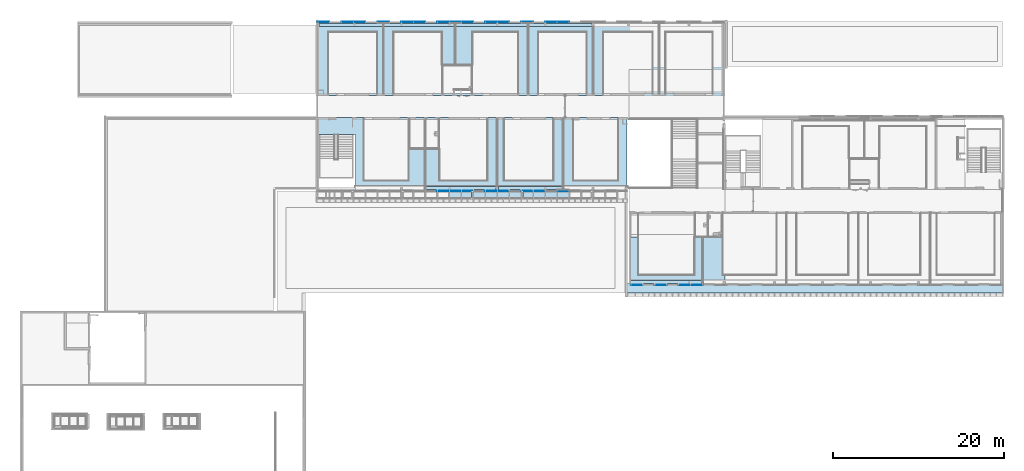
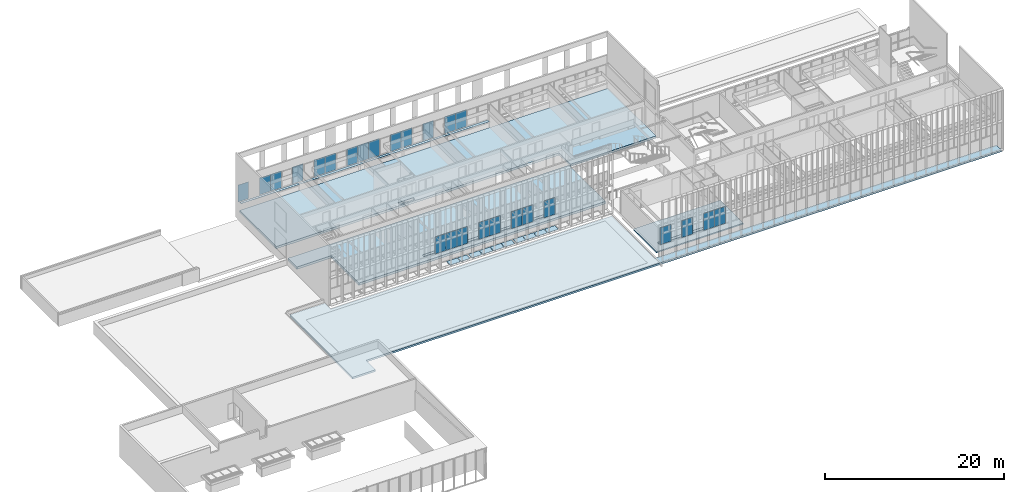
# One storey, part 30 of 106: 36 plates, 11 slabs, 2 openings, 5 elements without a shape of their own.
"""IFC2X3 building model written with IfcOpenShell, lengths in centimetres."""

from ifc_helpers import new_model, entity, si_unit, converted_unit, derived_unit, direction, frame, frame_2d, origin, origin_2d_with_axis, place, context, subcontext, project, spatial, polyline, rectangle, outline, extrude, source, transform, mapped, material, layer, layer_set, layer_usage, type_object, type_shapes, element, aggregate, save


model = new_model("IFC2X3")

# Units and contexts
model_context = context("Model", 3, precision=0.001, world=origin(), true_north=direction((6.12303176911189e-17, 1.0)))
body_context = subcontext(model_context, "Body", "Model", "MODEL_VIEW")
ifc_project = project(units=[si_unit("LENGTHUNIT", "METRE", prefix="CENTI"), si_unit("AREAUNIT", "SQUARE_METRE"), si_unit("VOLUMEUNIT", "CUBIC_METRE"), converted_unit("PLANEANGLEUNIT", "DEGREE", entity("IfcRatioMeasure", 0.0174532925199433), si_unit("PLANEANGLEUNIT", "RADIAN"), dimensions=[0, 0, 0, 0, 0, 0, 0]), si_unit("MASSUNIT", "GRAM", prefix="KILO"), derived_unit("MASSDENSITYUNIT", [(si_unit("MASSUNIT", "GRAM", prefix="KILO"), 1), (si_unit("LENGTHUNIT", "METRE"), -3)]), si_unit("TIMEUNIT", "SECOND"), si_unit("FREQUENCYUNIT", "HERTZ"), si_unit("THERMODYNAMICTEMPERATUREUNIT", "DEGREE_CELSIUS"), derived_unit("THERMALTRANSMITTANCEUNIT", [(si_unit("MASSUNIT", "GRAM", prefix="KILO"), 1), (si_unit("THERMODYNAMICTEMPERATUREUNIT", "KELVIN"), -1), (si_unit("TIMEUNIT", "SECOND"), -3)]), derived_unit("VOLUMETRICFLOWRATEUNIT", [(si_unit("LENGTHUNIT", "METRE"), 3), (si_unit("TIMEUNIT", "SECOND"), -1)]), si_unit("ELECTRICCURRENTUNIT", "AMPERE"), si_unit("ELECTRICVOLTAGEUNIT", "VOLT"), si_unit("POWERUNIT", "WATT"), si_unit("FORCEUNIT", "NEWTON", prefix="KILO"), si_unit("ILLUMINANCEUNIT", "LUX"), si_unit("LUMINOUSFLUXUNIT", "LUMEN"), si_unit("LUMINOUSINTENSITYUNIT", "CANDELA"), derived_unit("USERDEFINED", [(si_unit("MASSUNIT", "GRAM", prefix="KILO"), -1), (si_unit("LENGTHUNIT", "METRE"), -2), (si_unit("TIMEUNIT", "SECOND"), 3), (si_unit("LUMINOUSFLUXUNIT", "LUMEN"), 1)]), derived_unit("LINEARVELOCITYUNIT", [(si_unit("LENGTHUNIT", "METRE"), 1), (si_unit("TIMEUNIT", "SECOND"), -1)]), si_unit("PRESSUREUNIT", "PASCAL"), derived_unit("USERDEFINED", [(si_unit("LENGTHUNIT", "METRE"), -2), (si_unit("MASSUNIT", "GRAM", prefix="KILO"), 1), (si_unit("TIMEUNIT", "SECOND"), -2)])], contexts=[model_context])

# Site, building, storey
site_placement = place(None, frame((-2781.94577612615, 7442.24238424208, 0.0)))
site = spatial("IfcSite", under=ifc_project, at=site_placement, Name="Default", CompositionType="ELEMENT")
building_placement = place(site_placement, origin())
building = spatial("IfcBuilding", under=site, at=building_placement, CompositionType="ELEMENT")
storey_placement = place(building_placement, frame((0.0, 0.0, 422.0)))
storey = spatial("IfcBuildingStorey", under=building, at=storey_placement, Name="Toiture - Cuisine", CompositionType="ELEMENT", Elevation=421.999999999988)

# Slab, openings
ifc_material_1 = material(Name="Béton, coulé sur place")
ifc_layer_1 = layer(ifc_material_1, 1.0)
ifc_material_2 = material(Name="01 - Maçonnerie")
ifc_layer_2 = layer(ifc_material_2, 30.0)
ifc_layer_set_1 = layer_set([ifc_layer_1, ifc_layer_2], Name="Sol:02 - dalle béton 30cm + finition 1cm")
ifc_layer_usage_1 = layer_usage(ifc_layer_set_1, "AXIS3", "POSITIVE", 0.0)
slab_type_1 = type_object("IfcSlabType", Name="Sol:02 - dalle béton 30cm + finition 1cm", PredefinedType="FLOOR")
slab_1_placement = place(building_placement, frame((-8409.49987766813, -3005.31349958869, 391.0)))
slab_1 = element("IfcSlab", 1, at=slab_1_placement, inside=storey, type_object=slab_type_1, material=ifc_layer_usage_1, Name="Sol:02 - dalle béton 30cm + finition 1cm", ObjectType="Sol:02 - dalle béton 30cm + finition 1cm", PredefinedType="FLOOR", context=body_context, shape_type="SweptSolid", body=[
    extrude(outline(polyline([(3999.74999741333, 680.10824880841), (3999.74999741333, 1495.15674979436), (-741.750000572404, 1495.15674979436), (-741.750000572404, 425.156749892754), (358.249997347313, 425.156749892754), (358.249997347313, 680.108248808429), (3999.74999741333, 680.10824880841)])), frame((3999.74999741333, 1495.15674979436, 31.0), z_axis=(0.0, 0.0, -1.0), x_axis=(-1.0, 0.0, 0.0)), (0.0, 0.0, 1.0), 31.0),
])
opening_1_placement = place(slab_1_placement, frame((1637.34999902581, 2215.26499860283, 31.0)))
element("IfcOpeningElement", 2, at=opening_1_placement, cuts=slab_1, Name="Sol:02 - dalle béton 30cm + finition 1cm:2", ObjectType="Opening", context=body_context, shape_type="SweptSolid", body=[
    extrude(rectangle(XDim=39.9999999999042, YDim=67.3000020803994, at=origin_2d_with_axis()), frame((0.0, 0.0, 0.0), z_axis=(0.0, 0.0, -1.0), x_axis=(0.0, -1.0, 0.0)), (0.0, 0.0, 1.0), 31.0),
])
opening_2_placement = place(slab_1_placement, frame((1740.1999979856, 2215.26499860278, 31.0)))
element("IfcOpeningElement", 3, at=opening_2_placement, cuts=slab_1, Name="Sol:02 - dalle béton 30cm + finition 1cm:3", ObjectType="Opening", context=body_context, shape_type="SweptSolid", body=[
    extrude(rectangle(XDim=118.999999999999, YDim=39.9999999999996, at=origin_2d_with_axis()), frame((0.0, 0.0, 0.0), z_axis=(0.0, 0.0, -1.0), x_axis=(-1.0, 0.0, 0.0)), (0.0, 0.0, 1.0), 31.0),
])

# Slab
slab_type_2 = type_object("IfcSlabType", Name="Sol:02 - dalle béton 30cm + finition 1cm", PredefinedType="FLOOR")
slab_2_placement = place(building_placement, frame((-8409.49987766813, -3005.31349958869, 391.0)))
element("IfcSlab", 4, at=slab_2_placement, inside=storey, type_object=slab_type_2, material=ifc_layer_usage_1, Name="Sol:02 - dalle béton 30cm + finition 1cm:2", ObjectType="Sol:02 - dalle béton 30cm + finition 1cm", PredefinedType="FLOOR", context=body_context, shape_type="SweptSolid", body=[
    extrude(outline(polyline([(382.249997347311, -394.922283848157), (3556.74999734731, -394.922283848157), (3556.74999734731, 220.156749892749), (3999.74999741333, 220.15674989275), (3999.74999741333, 420.156749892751), (382.249997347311, 420.15674989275), (382.249997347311, -394.922283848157)])), frame((3999.74999741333, 1495.15674979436, 31.0), z_axis=(0.0, 0.0, -1.0), x_axis=(-1.0, 0.0, 0.0)), (0.0, 0.0, 1.0), 31.0),
])

# Roof, plates
curtain_wall_type_1 = type_object("IfcCurtainWallType", Name="Vitres inclinées:Toit en verre 1 m x 2 m", PredefinedType="NOTDEFINED")
roof_1_placement = place(building_placement, origin())
roof_1 = element("IfcRoof", 5, at=roof_1_placement, inside=storey, type_object=curtain_wall_type_1, Name="Vitres inclinées:Toit en verre 1 m x 2 m", ObjectType="Vitres inclinées:Toit en verre 1 m x 2 m", ShapeType="NOTDEFINED")
ifc_material_3 = material(Name="Verre")
ifc_layer_3 = layer(ifc_material_3, 4.0)
ifc_layer_set_2 = layer_set([ifc_layer_3], Name="Panneau système:Vitré")
ifc_layer_usage_2 = layer_usage(ifc_layer_set_2, "AXIS3", "POSITIVE", 0.0)
plate_type_1 = type_object("IfcPlateType", Name="Vitré", PredefinedType="CURTAIN_PANEL", material=ifc_layer_set_2)
shared_shape_1 = source(origin(), body_context, "Body", "SweptSolid", [
    extrude(rectangle(XDim=4.0, YDim=135.0, at=origin_2d_with_axis()), frame((0.0, 0.0, 0.0), z_axis=(0.0, 0.0, 1.0), x_axis=(0.0, 1.0, 0.0)), (0.0, 0.0, 1.0), 80.1235111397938),
])
type_shapes(plate_type_1, [shared_shape_1])
plate_1_placement = place(roof_1_placement, frame((-6799.49987763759, -2035.34756574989, 358.254827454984), z_axis=(0.0, 0.998629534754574, 0.0523359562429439), x_axis=(1.0, 0.0, 0.0)))
plate_1 = element("IfcPlate", 6, at=plate_1_placement, type_object=plate_type_1, material=ifc_layer_usage_2, Name="Panneau système:Vitré", ObjectType="Panneau système:Vitré", context=body_context, shape_type="MappedRepresentation", body=[
    mapped(shared_shape_1, transform((0.0, 0.0, 0.0), scale=1.0)),
])
ifc_layer_usage_3 = layer_usage(ifc_layer_set_2, "AXIS3", "POSITIVE", 0.0)
plate_2_placement = place(roof_1_placement, frame((-6519.50004166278, -2035.34756574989, 358.254827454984), z_axis=(0.0, 0.998629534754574, 0.0523359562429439), x_axis=(1.0, 0.0, 0.0)))
plate_2 = element("IfcPlate", 7, at=plate_2_placement, type_object=plate_type_1, material=ifc_layer_usage_3, Name="Panneau système:Vitré", ObjectType="Panneau système:Vitré", context=body_context, shape_type="MappedRepresentation", body=[
    mapped(shared_shape_1, transform((0.0, 0.0, 0.0), scale=1.0)),
])
ifc_layer_usage_4 = layer_usage(ifc_layer_set_2, "AXIS3", "POSITIVE", 0.0)
plate_3_placement = place(roof_1_placement, frame((-6379.50004166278, -2035.34756574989, 358.254827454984), z_axis=(0.0, 0.998629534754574, 0.0523359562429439), x_axis=(1.0, 0.0, 0.0)))
plate_3 = element("IfcPlate", 8, at=plate_3_placement, type_object=plate_type_1, material=ifc_layer_usage_4, Name="Panneau système:Vitré", ObjectType="Panneau système:Vitré", context=body_context, shape_type="MappedRepresentation", body=[
    mapped(shared_shape_1, transform((0.0, 0.0, 0.0), scale=1.0)),
])
ifc_layer_usage_5 = layer_usage(ifc_layer_set_2, "AXIS3", "POSITIVE", 0.0)
plate_4_placement = place(roof_1_placement, frame((-6239.50004166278, -2035.34756574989, 358.254827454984), z_axis=(0.0, 0.998629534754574, 0.0523359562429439), x_axis=(1.0, 0.0, 0.0)))
plate_4 = element("IfcPlate", 9, at=plate_4_placement, type_object=plate_type_1, material=ifc_layer_usage_5, Name="Panneau système:Vitré", ObjectType="Panneau système:Vitré", context=body_context, shape_type="MappedRepresentation", body=[
    mapped(shared_shape_1, transform((0.0, 0.0, 0.0), scale=1.0)),
])
ifc_layer_usage_6 = layer_usage(ifc_layer_set_2, "AXIS3", "POSITIVE", 0.0)
plate_5_placement = place(roof_1_placement, frame((-6099.50004166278, -2035.34756574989, 358.254827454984), z_axis=(0.0, 0.998629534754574, 0.0523359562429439), x_axis=(1.0, 0.0, 0.0)))
plate_5 = element("IfcPlate", 10, at=plate_5_placement, type_object=plate_type_1, material=ifc_layer_usage_6, Name="Panneau système:Vitré", ObjectType="Panneau système:Vitré", context=body_context, shape_type="MappedRepresentation", body=[
    mapped(shared_shape_1, transform((0.0, 0.0, 0.0), scale=1.0)),
])
ifc_layer_usage_7 = layer_usage(ifc_layer_set_2, "AXIS3", "POSITIVE", 0.0)
plate_6_placement = place(roof_1_placement, frame((-5819.50004166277, -2035.34756574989, 358.254827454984), z_axis=(0.0, 0.998629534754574, 0.0523359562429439), x_axis=(1.0, 0.0, 0.0)))
plate_6 = element("IfcPlate", 11, at=plate_6_placement, type_object=plate_type_1, material=ifc_layer_usage_7, Name="Panneau système:Vitré", ObjectType="Panneau système:Vitré", context=body_context, shape_type="MappedRepresentation", body=[
    mapped(shared_shape_1, transform((0.0, 0.0, 0.0), scale=1.0)),
])
ifc_layer_usage_8 = layer_usage(ifc_layer_set_2, "AXIS3", "POSITIVE", 0.0)
plate_7_placement = place(roof_1_placement, frame((-5679.50004166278, -2035.34756574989, 358.254827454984), z_axis=(0.0, 0.998629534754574, 0.0523359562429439), x_axis=(1.0, 0.0, 0.0)))
plate_7 = element("IfcPlate", 12, at=plate_7_placement, type_object=plate_type_1, material=ifc_layer_usage_8, Name="Panneau système:Vitré", ObjectType="Panneau système:Vitré", context=body_context, shape_type="MappedRepresentation", body=[
    mapped(shared_shape_1, transform((0.0, 0.0, 0.0), scale=1.0)),
])
ifc_layer_usage_9 = layer_usage(ifc_layer_set_2, "AXIS3", "POSITIVE", 0.0)
plate_8_placement = place(roof_1_placement, frame((-5539.50004166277, -2035.34756574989, 358.254827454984), z_axis=(0.0, 0.998629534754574, 0.0523359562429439), x_axis=(1.0, 0.0, 0.0)))
plate_8 = element("IfcPlate", 13, at=plate_8_placement, type_object=plate_type_1, material=ifc_layer_usage_9, Name="Panneau système:Vitré", ObjectType="Panneau système:Vitré", context=body_context, shape_type="MappedRepresentation", body=[
    mapped(shared_shape_1, transform((0.0, 0.0, 0.0), scale=1.0)),
])
ifc_layer_usage_10 = layer_usage(ifc_layer_set_2, "AXIS3", "POSITIVE", 0.0)
plate_type_2 = type_object("IfcPlateType", Name="Vitré", PredefinedType="CURTAIN_PANEL", material=ifc_layer_set_2)
shared_shape_2 = source(origin(), body_context, "Body", "SweptSolid", [
    extrude(rectangle(XDim=4.0, YDim=117.5, at=origin_2d_with_axis()), frame((0.0, 0.0, 0.0), z_axis=(0.0, 0.0, 1.0), x_axis=(0.0, 1.0, 0.0)), (0.0, 0.0, 1.0), 80.1235111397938),
])
type_shapes(plate_type_2, [shared_shape_2])
plate_9_placement = place(roof_1_placement, frame((-6668.24987763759, -2035.34756574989, 358.254827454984), z_axis=(0.0, 0.998629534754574, 0.0523359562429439), x_axis=(1.0, 0.0, 0.0)))
plate_9 = element("IfcPlate", 14, at=plate_9_placement, type_object=plate_type_2, material=ifc_layer_usage_10, Name="Panneau système:Vitré", ObjectType="Panneau système:Vitré", context=body_context, shape_type="MappedRepresentation", body=[
    mapped(shared_shape_2, transform((0.0, 0.0, 0.0), scale=1.0)),
])
ifc_layer_usage_11 = layer_usage(ifc_layer_set_2, "AXIS3", "POSITIVE", 0.0)
plate_type_3 = type_object("IfcPlateType", Name="Vitré", PredefinedType="CURTAIN_PANEL", material=ifc_layer_set_2)
shared_shape_3 = source(origin(), body_context, "Body", "SweptSolid", [
    extrude(rectangle(XDim=4.0, YDim=117.499835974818, at=origin_2d_with_axis()), frame((0.0, 0.0, 0.0), z_axis=(0.0, 0.0, 1.0), x_axis=(0.0, 1.0, 0.0)), (0.0, 0.0, 1.0), 80.1235111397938),
])
type_shapes(plate_type_3, [shared_shape_3])
plate_10_placement = place(roof_1_placement, frame((-5950.74995965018, -2035.34756574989, 358.254827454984), z_axis=(0.0, 0.998629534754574, 0.0523359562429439), x_axis=(1.0, 0.0, 0.0)))
plate_10 = element("IfcPlate", 15, at=plate_10_placement, type_object=plate_type_3, material=ifc_layer_usage_11, Name="Panneau système:Vitré", ObjectType="Panneau système:Vitré", context=body_context, shape_type="MappedRepresentation", body=[
    mapped(shared_shape_3, transform((0.0, 0.0, 0.0), scale=1.0)),
])
aggregate(roof_1, [plate_1, plate_9, plate_2, plate_3, plate_4, plate_5, plate_10, plate_6, plate_7, plate_8])

# Curtain wall, plate
curtain_wall_type_2 = type_object("IfcCurtainWallType", Name="Mur-rideau:07 - mur rideau trame 140 cm", PredefinedType="NOTDEFINED")
curtain_wall_1_placement = place(building_placement, origin())
curtain_wall_1 = element("IfcCurtainWall", 16, at=curtain_wall_1_placement, inside=storey, type_object=curtain_wall_type_2, Name="Mur-rideau:07 - mur rideau trame 140 cm", ObjectType="Mur-rideau:07 - mur rideau trame 140 cm")
ifc_layer_usage_12 = layer_usage(ifc_layer_set_2, "AXIS3", "POSITIVE", 0.0)
plate_type_4 = type_object("IfcPlateType", Name="Vitré", PredefinedType="CURTAIN_PANEL", material=ifc_layer_set_2)
shared_shape_4 = source(origin(), body_context, "Body", "SweptSolid", [
    extrude(rectangle(XDim=4.0, YDim=135.01250003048, at=origin_2d_with_axis()), frame((0.0, 0.0, 0.0), z_axis=(0.0, 0.0, 1.0), x_axis=(0.0, 1.0, 0.0)), (0.0, 0.0, 1.0), 229.2625),
])
type_shapes(plate_type_4, [shared_shape_4])
plate_11_placement = place(curtain_wall_1_placement, frame((-4678.67488285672, -3046.51349958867, 509.618750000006)))
plate_11 = element("IfcPlate", 17, at=plate_11_placement, type_object=plate_type_4, material=ifc_layer_usage_12, Name="Panneau système:Vitré", ObjectType="Panneau système:Vitré", context=body_context, shape_type="MappedRepresentation", body=[
    mapped(shared_shape_4, transform((0.0, 0.0, 0.0), scale=1.0)),
])

# Curtain wall, plates
curtain_wall_2_placement = place(building_placement, origin())
curtain_wall_2 = element("IfcCurtainWall", 18, at=curtain_wall_2_placement, inside=storey, type_object=curtain_wall_type_2, Name="Mur-rideau:07 - mur rideau trame 140 cm", ObjectType="Mur-rideau:07 - mur rideau trame 140 cm")
ifc_layer_usage_13 = layer_usage(ifc_layer_set_2, "AXIS3", "POSITIVE", 0.0)
plate_type_5 = type_object("IfcPlateType", Name="Vitré", PredefinedType="CURTAIN_PANEL", material=ifc_layer_set_2)
shared_shape_5 = source(origin(), body_context, "Body", "SweptSolid", [
    extrude(rectangle(XDim=4.0, YDim=138.262499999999, at=origin_2d_with_axis()), frame((0.0, 0.0, 0.0), z_axis=(0.0, 0.0, 1.0), x_axis=(0.0, 1.0, 0.0)), (0.0, 0.0, 1.0), 229.2625),
])
type_shapes(plate_type_5, [shared_shape_5])
plate_12_placement = place(curtain_wall_2_placement, frame((-5539.50004159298, 26.0, 509.61875), z_axis=(0.0, 0.0, 1.0), x_axis=(-1.0, 0.0, 0.0)))
plate_12 = element("IfcPlate", 19, at=plate_12_placement, type_object=plate_type_5, material=ifc_layer_usage_13, Name="Panneau système:Vitré", ObjectType="Panneau système:Vitré", context=body_context, shape_type="MappedRepresentation", body=[
    mapped(shared_shape_5, transform((0.0, 0.0, 0.0), scale=1.0)),
])
ifc_layer_usage_14 = layer_usage(ifc_layer_set_2, "AXIS3", "POSITIVE", 0.0)
plate_13_placement = place(curtain_wall_2_placement, frame((-5679.50004159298, 26.0, 509.61875), z_axis=(0.0, 0.0, 1.0), x_axis=(-1.0, 0.0, 0.0)))
plate_13 = element("IfcPlate", 20, at=plate_13_placement, type_object=plate_type_5, material=ifc_layer_usage_14, Name="Panneau système:Vitré", ObjectType="Panneau système:Vitré", context=body_context, shape_type="MappedRepresentation", body=[
    mapped(shared_shape_5, transform((0.0, 0.0, 0.0), scale=1.0)),
])
ifc_layer_usage_15 = layer_usage(ifc_layer_set_2, "AXIS3", "POSITIVE", 0.0)
plate_14_placement = place(curtain_wall_2_placement, frame((-5959.50004159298, 26.0, 509.61875), z_axis=(0.0, 0.0, 1.0), x_axis=(-1.0, 0.0, 0.0)))
plate_14 = element("IfcPlate", 21, at=plate_14_placement, type_object=plate_type_5, material=ifc_layer_usage_15, Name="Panneau système:Vitré", ObjectType="Panneau système:Vitré", context=body_context, shape_type="MappedRepresentation", body=[
    mapped(shared_shape_5, transform((0.0, 0.0, 0.0), scale=1.0)),
])
ifc_layer_usage_16 = layer_usage(ifc_layer_set_2, "AXIS3", "POSITIVE", 0.0)
plate_15_placement = place(curtain_wall_2_placement, frame((-6239.50004159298, 26.0, 509.61875), z_axis=(0.0, 0.0, 1.0), x_axis=(-1.0, 0.0, 0.0)))
plate_15 = element("IfcPlate", 22, at=plate_15_placement, type_object=plate_type_5, material=ifc_layer_usage_16, Name="Panneau système:Vitré", ObjectType="Panneau système:Vitré", context=body_context, shape_type="MappedRepresentation", body=[
    mapped(shared_shape_5, transform((0.0, 0.0, 0.0), scale=1.0)),
])
ifc_layer_usage_17 = layer_usage(ifc_layer_set_2, "AXIS3", "POSITIVE", 0.0)
plate_16_placement = place(curtain_wall_2_placement, frame((-6379.50004159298, 26.0, 509.61875), z_axis=(0.0, 0.0, 1.0), x_axis=(-1.0, 0.0, 0.0)))
plate_16 = element("IfcPlate", 23, at=plate_16_placement, type_object=plate_type_5, material=ifc_layer_usage_17, Name="Panneau système:Vitré", ObjectType="Panneau système:Vitré", context=body_context, shape_type="MappedRepresentation", body=[
    mapped(shared_shape_5, transform((0.0, 0.0, 0.0), scale=1.0)),
])
ifc_layer_usage_18 = layer_usage(ifc_layer_set_2, "AXIS3", "POSITIVE", 0.0)
plate_17_placement = place(curtain_wall_2_placement, frame((-6659.50004159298, 26.0, 509.61875), z_axis=(0.0, 0.0, 1.0), x_axis=(-1.0, 0.0, 0.0)))
plate_17 = element("IfcPlate", 24, at=plate_17_placement, type_object=plate_type_5, material=ifc_layer_usage_18, Name="Panneau système:Vitré", ObjectType="Panneau système:Vitré", context=body_context, shape_type="MappedRepresentation", body=[
    mapped(shared_shape_5, transform((0.0, 0.0, 0.0), scale=1.0)),
])
ifc_layer_usage_19 = layer_usage(ifc_layer_set_2, "AXIS3", "POSITIVE", 0.0)
plate_18_placement = place(curtain_wall_2_placement, frame((-6799.50004159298, 26.0, 509.61875), z_axis=(0.0, 0.0, 1.0), x_axis=(-1.0, 0.0, 0.0)))
plate_18 = element("IfcPlate", 25, at=plate_18_placement, type_object=plate_type_5, material=ifc_layer_usage_19, Name="Panneau système:Vitré", ObjectType="Panneau système:Vitré", context=body_context, shape_type="MappedRepresentation", body=[
    mapped(shared_shape_5, transform((0.0, 0.0, 0.0), scale=1.0)),
])
ifc_layer_usage_20 = layer_usage(ifc_layer_set_2, "AXIS3", "POSITIVE", 0.0)
plate_19_placement = place(curtain_wall_2_placement, frame((-6939.50004159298, 26.0, 509.61875), z_axis=(0.0, 0.0, 1.0), x_axis=(-1.0, 0.0, 0.0)))
plate_19 = element("IfcPlate", 26, at=plate_19_placement, type_object=plate_type_5, material=ifc_layer_usage_20, Name="Panneau système:Vitré", ObjectType="Panneau système:Vitré", context=body_context, shape_type="MappedRepresentation", body=[
    mapped(shared_shape_5, transform((0.0, 0.0, 0.0), scale=1.0)),
])
ifc_layer_usage_21 = layer_usage(ifc_layer_set_2, "AXIS3", "POSITIVE", 0.0)
plate_20_placement = place(curtain_wall_2_placement, frame((-7219.50004159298, 26.0, 509.61875), z_axis=(0.0, 0.0, 1.0), x_axis=(-1.0, 0.0, 0.0)))
plate_20 = element("IfcPlate", 27, at=plate_20_placement, type_object=plate_type_5, material=ifc_layer_usage_21, Name="Panneau système:Vitré", ObjectType="Panneau système:Vitré", context=body_context, shape_type="MappedRepresentation", body=[
    mapped(shared_shape_5, transform((0.0, 0.0, 0.0), scale=1.0)),
])
ifc_layer_usage_22 = layer_usage(ifc_layer_set_2, "AXIS3", "POSITIVE", 0.0)
plate_21_placement = place(curtain_wall_2_placement, frame((-7359.50004159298, 26.0, 509.61875), z_axis=(0.0, 0.0, 1.0), x_axis=(-1.0, 0.0, 0.0)))
plate_21 = element("IfcPlate", 28, at=plate_21_placement, type_object=plate_type_5, material=ifc_layer_usage_22, Name="Panneau système:Vitré", ObjectType="Panneau système:Vitré", context=body_context, shape_type="MappedRepresentation", body=[
    mapped(shared_shape_5, transform((0.0, 0.0, 0.0), scale=1.0)),
])
ifc_layer_usage_23 = layer_usage(ifc_layer_set_2, "AXIS3", "POSITIVE", 0.0)
plate_22_placement = place(curtain_wall_2_placement, frame((-7639.50004159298, 26.0, 509.61875), z_axis=(0.0, 0.0, 1.0), x_axis=(-1.0, 0.0, 0.0)))
plate_22 = element("IfcPlate", 29, at=plate_22_placement, type_object=plate_type_5, material=ifc_layer_usage_23, Name="Panneau système:Vitré", ObjectType="Panneau système:Vitré", context=body_context, shape_type="MappedRepresentation", body=[
    mapped(shared_shape_5, transform((0.0, 0.0, 0.0), scale=1.0)),
])
ifc_layer_usage_24 = layer_usage(ifc_layer_set_2, "AXIS3", "POSITIVE", 0.0)
plate_23_placement = place(curtain_wall_2_placement, frame((-7919.50004159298, 26.0, 509.61875), z_axis=(0.0, 0.0, 1.0), x_axis=(-1.0, 0.0, 0.0)))
plate_23 = element("IfcPlate", 30, at=plate_23_placement, type_object=plate_type_5, material=ifc_layer_usage_24, Name="Panneau système:Vitré", ObjectType="Panneau système:Vitré", context=body_context, shape_type="MappedRepresentation", body=[
    mapped(shared_shape_5, transform((0.0, 0.0, 0.0), scale=1.0)),
])
ifc_layer_usage_25 = layer_usage(ifc_layer_set_2, "AXIS3", "POSITIVE", 0.0)
plate_24_placement = place(curtain_wall_2_placement, frame((-8059.50004159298, 26.0, 509.61875), z_axis=(0.0, 0.0, 1.0), x_axis=(-1.0, 0.0, 0.0)))
plate_24 = element("IfcPlate", 31, at=plate_24_placement, type_object=plate_type_5, material=ifc_layer_usage_25, Name="Panneau système:Vitré", ObjectType="Panneau système:Vitré", context=body_context, shape_type="MappedRepresentation", body=[
    mapped(shared_shape_5, transform((0.0, 0.0, 0.0), scale=1.0)),
])

curtain_wall_3_placement = place(building_placement, origin())
curtain_wall_3 = element("IfcCurtainWall", 32, at=curtain_wall_3_placement, inside=storey, type_object=curtain_wall_type_2, Name="Mur-rideau:07 - mur rideau trame 140 cm", ObjectType="Mur-rideau:07 - mur rideau trame 140 cm")
ifc_layer_usage_26 = layer_usage(ifc_layer_set_2, "AXIS3", "POSITIVE", 0.0)
plate_25_placement = place(curtain_wall_3_placement, frame((-6939.49987763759, -1946.27903364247, 509.61875)))
plate_25 = element("IfcPlate", 33, at=plate_25_placement, type_object=plate_type_5, material=ifc_layer_usage_26, Name="Panneau système:Vitré", ObjectType="Panneau système:Vitré", context=body_context, shape_type="MappedRepresentation", body=[
    mapped(shared_shape_5, transform((0.0, 0.0, 0.0), scale=1.0)),
])
ifc_layer_usage_27 = layer_usage(ifc_layer_set_2, "AXIS3", "POSITIVE", 0.0)
plate_26_placement = place(curtain_wall_3_placement, frame((-6799.49987763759, -1946.27903364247, 509.61875)))
plate_26 = element("IfcPlate", 34, at=plate_26_placement, type_object=plate_type_5, material=ifc_layer_usage_27, Name="Panneau système:Vitré", ObjectType="Panneau système:Vitré", context=body_context, shape_type="MappedRepresentation", body=[
    mapped(shared_shape_5, transform((0.0, 0.0, 0.0), scale=1.0)),
])
ifc_layer_usage_28 = layer_usage(ifc_layer_set_2, "AXIS3", "POSITIVE", 0.0)
plate_27_placement = place(curtain_wall_3_placement, frame((-6659.49987763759, -1946.27903364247, 509.61875)))
plate_27 = element("IfcPlate", 35, at=plate_27_placement, type_object=plate_type_5, material=ifc_layer_usage_28, Name="Panneau système:Vitré", ObjectType="Panneau système:Vitré", context=body_context, shape_type="MappedRepresentation", body=[
    mapped(shared_shape_5, transform((0.0, 0.0, 0.0), scale=1.0)),
])
ifc_layer_usage_29 = layer_usage(ifc_layer_set_2, "AXIS3", "POSITIVE", 0.0)
plate_28_placement = place(curtain_wall_3_placement, frame((-6379.49987763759, -1946.27903364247, 509.61875)))
plate_28 = element("IfcPlate", 36, at=plate_28_placement, type_object=plate_type_5, material=ifc_layer_usage_29, Name="Panneau système:Vitré", ObjectType="Panneau système:Vitré", context=body_context, shape_type="MappedRepresentation", body=[
    mapped(shared_shape_5, transform((0.0, 0.0, 0.0), scale=1.0)),
])
ifc_layer_usage_30 = layer_usage(ifc_layer_set_2, "AXIS3", "POSITIVE", 0.0)
plate_29_placement = place(curtain_wall_3_placement, frame((-6239.49987763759, -1946.27903364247, 509.61875)))
plate_29 = element("IfcPlate", 37, at=plate_29_placement, type_object=plate_type_5, material=ifc_layer_usage_30, Name="Panneau système:Vitré", ObjectType="Panneau système:Vitré", context=body_context, shape_type="MappedRepresentation", body=[
    mapped(shared_shape_5, transform((0.0, 0.0, 0.0), scale=1.0)),
])
ifc_layer_usage_31 = layer_usage(ifc_layer_set_2, "AXIS3", "POSITIVE", 0.0)
plate_30_placement = place(curtain_wall_3_placement, frame((-5959.49987763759, -1946.27903364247, 509.61875)))
plate_30 = element("IfcPlate", 38, at=plate_30_placement, type_object=plate_type_5, material=ifc_layer_usage_31, Name="Panneau système:Vitré", ObjectType="Panneau système:Vitré", context=body_context, shape_type="MappedRepresentation", body=[
    mapped(shared_shape_5, transform((0.0, 0.0, 0.0), scale=1.0)),
])
ifc_layer_usage_32 = layer_usage(ifc_layer_set_2, "AXIS3", "POSITIVE", 0.0)
plate_31_placement = place(curtain_wall_3_placement, frame((-5819.49987763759, -1946.27903364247, 509.61875)))
plate_31 = element("IfcPlate", 39, at=plate_31_placement, type_object=plate_type_5, material=ifc_layer_usage_32, Name="Panneau système:Vitré", ObjectType="Panneau système:Vitré", context=body_context, shape_type="MappedRepresentation", body=[
    mapped(shared_shape_5, transform((0.0, 0.0, 0.0), scale=1.0)),
])
ifc_layer_usage_33 = layer_usage(ifc_layer_set_2, "AXIS3", "POSITIVE", 0.0)
plate_32_placement = place(curtain_wall_3_placement, frame((-5539.49987763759, -1946.27903364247, 509.61875)))
plate_32 = element("IfcPlate", 40, at=plate_32_placement, type_object=plate_type_5, material=ifc_layer_usage_33, Name="Panneau système:Vitré", ObjectType="Panneau système:Vitré", context=body_context, shape_type="MappedRepresentation", body=[
    mapped(shared_shape_5, transform((0.0, 0.0, 0.0), scale=1.0)),
])
aggregate(curtain_wall_3, [plate_25, plate_26, plate_27, plate_28, plate_29, plate_30, plate_31, plate_32])

# Plate
ifc_layer_usage_34 = layer_usage(ifc_layer_set_2, "AXIS3", "POSITIVE", 0.0)
plate_33_placement = place(curtain_wall_1_placement, frame((-4400.29988284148, -3046.51349958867, 509.618750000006)))
plate_33 = element("IfcPlate", 41, at=plate_33_placement, type_object=plate_type_5, material=ifc_layer_usage_34, Name="Panneau système:Vitré", ObjectType="Panneau système:Vitré", context=body_context, shape_type="MappedRepresentation", body=[
    mapped(shared_shape_5, transform((0.0, 0.0, 0.0), scale=1.0)),
])

ifc_layer_usage_35 = layer_usage(ifc_layer_set_2, "AXIS3", "POSITIVE", 0.0)
plate_34_placement = place(curtain_wall_1_placement, frame((-4120.29988284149, -3046.51349958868, 509.618750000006)))
plate_34 = element("IfcPlate", 42, at=plate_34_placement, type_object=plate_type_5, material=ifc_layer_usage_35, Name="Panneau système:Vitré", ObjectType="Panneau système:Vitré", context=body_context, shape_type="MappedRepresentation", body=[
    mapped(shared_shape_5, transform((0.0, 0.0, 0.0), scale=1.0)),
])

ifc_layer_usage_36 = layer_usage(ifc_layer_set_2, "AXIS3", "POSITIVE", 0.0)
plate_35_placement = place(curtain_wall_1_placement, frame((-3980.29988284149, -3046.51349958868, 509.618750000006)))
plate_35 = element("IfcPlate", 43, at=plate_35_placement, type_object=plate_type_5, material=ifc_layer_usage_36, Name="Panneau système:Vitré", ObjectType="Panneau système:Vitré", context=body_context, shape_type="MappedRepresentation", body=[
    mapped(shared_shape_5, transform((0.0, 0.0, 0.0), scale=1.0)),
])

aggregate(curtain_wall_1, [plate_11, plate_33, plate_34, plate_35])

ifc_layer_usage_37 = layer_usage(ifc_layer_set_2, "AXIS3", "POSITIVE", 0.0)
plate_type_6 = type_object("IfcPlateType", Name="Vitré", PredefinedType="CURTAIN_PANEL", material=ifc_layer_set_2)
shared_shape_6 = source(origin(), body_context, "Body", "SweptSolid", [
    extrude(rectangle(XDim=4.0, YDim=135.012336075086, at=origin_2d_with_axis()), frame((0.0, 0.0, 0.0), z_axis=(0.0, 0.0, 1.0), x_axis=(0.0, 1.0, 0.0)), (0.0, 0.0, 1.0), 229.2625),
])
type_shapes(plate_type_6, [shared_shape_6])
plate_36_placement = place(curtain_wall_2_placement, frame((-8337.87495963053, 26.0, 509.61875), z_axis=(0.0, 0.0, 1.0), x_axis=(-1.0, 0.0, 0.0)))
plate_36 = element("IfcPlate", 44, at=plate_36_placement, type_object=plate_type_6, material=ifc_layer_usage_37, Name="Panneau système:Vitré", ObjectType="Panneau système:Vitré", context=body_context, shape_type="MappedRepresentation", body=[
    mapped(shared_shape_6, transform((0.0, 0.0, 0.0), scale=1.0)),
])

aggregate(curtain_wall_2, [plate_12, plate_13, plate_14, plate_15, plate_16, plate_17, plate_18, plate_19, plate_20, plate_21, plate_22, plate_23, plate_24, plate_36])

# Slabs
ifc_material_4 = material(Name="Bois tablettes")
ifc_layer_4 = layer(ifc_material_4, 2.0)
ifc_layer_set_3 = layer_set([ifc_layer_4], Name="Sol:02 - Tablette bois 2cm")
ifc_layer_usage_38 = layer_usage(ifc_layer_set_3, "AXIS3", "POSITIVE", 0.0)
slab_type_3 = type_object("IfcSlabType", Name="Sol:02 - Tablette bois 2cm", PredefinedType="FLOOR")
slab_3_placement = place(building_placement, frame((-7966.49987760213, -3030.3134995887, 510.0)))
element("IfcSlab", 45, at=slab_3_placement, inside=storey, type_object=slab_type_3, material=ifc_layer_usage_38, Name="Sol:02 - Tablette bois 2cm:2", ObjectType="Sol:02 - Tablette bois 2cm", PredefinedType="FLOOR", context=body_context, shape_type="SweptSolid", body=[
    extrude(rectangle(XDim=837.399994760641, YDim=34.9999999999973, at=frame_2d((145.749999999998, -550.11723297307), x_axis=(-1.0, 0.0))), frame((3778.24999738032, 567.617232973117, 2.0), z_axis=(0.0, 0.0, -1.0), x_axis=(-1.0, 0.0, 0.0)), (0.0, 0.0, 1.0), 1.99999999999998),
])
slab_type_4 = type_object("IfcSlabType", Name="Sol:02 - Tablette bois 2cm", PredefinedType="FLOOR")
slab_4_placement = place(building_placement, frame((-7966.49987760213, -3030.3134995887, 510.0)))
element("IfcSlab", 46, at=slab_4_placement, inside=storey, type_object=slab_type_4, material=ifc_layer_usage_38, Name="Sol:02 - Tablette bois 2cm:7", ObjectType="Sol:02 - Tablette bois 2cm", PredefinedType="FLOOR", context=body_context, shape_type="SweptSolid", body=[
    extrude(rectangle(XDim=754.500164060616, YDim=34.9999999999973, at=frame_2d((1731.50007941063, 550.117232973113), x_axis=(-1.0, 0.0))), frame((3778.24999738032, 567.617232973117, 2.0), z_axis=(0.0, 0.0, -1.0), x_axis=(-1.0, 0.0, 0.0)), (0.0, 0.0, 1.0), 1.99999999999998),
])
slab_type_5 = type_object("IfcSlabType", Name="Sol:02 - Tablette bois 2cm", PredefinedType="FLOOR")
slab_5_placement = place(building_placement, frame((-7966.49987760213, -3030.3134995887, 510.0)))
element("IfcSlab", 47, at=slab_5_placement, inside=storey, type_object=slab_type_5, material=ifc_layer_usage_38, Name="Sol:02 - Tablette bois 2cm:8", ObjectType="Sol:02 - Tablette bois 2cm", PredefinedType="FLOOR", context=body_context, shape_type="SweptSolid", body=[
    extrude(rectangle(XDim=822.499835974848, YDim=34.9999999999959, at=frame_2d((2545.00007942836, 550.117232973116), x_axis=(-1.0, 0.0))), frame((3778.24999738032, 567.617232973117, 2.0), z_axis=(0.0, 0.0, -1.0), x_axis=(-1.0, 0.0, 0.0)), (0.0, 0.0, 1.0), 1.99999999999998),
])
ifc_layer_usage_39 = layer_usage(ifc_layer_set_3, "AXIS3", "POSITIVE", 0.0)
slab_type_6 = type_object("IfcSlabType", Name="Sol:02 - Tablette bois 2cm", PredefinedType="FLOOR")
slab_6_placement = place(building_placement, frame((-8394.19987766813, -1125.0, 510.0)))
element("IfcSlab", 48, at=slab_6_placement, inside=storey, type_object=slab_type_6, material=ifc_layer_usage_39, Name="Sol:02 - Tablette bois 2cm:3", ObjectType="Sol:02 - Tablette bois 2cm", PredefinedType="FLOOR", context=body_context, shape_type="SweptSolid", body=[
    extrude(rectangle(XDim=34.9999999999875, YDim=741.799838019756, at=frame_2d((953.150080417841, 550.0), x_axis=(0.0, 1.0))), frame((3774.44999741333, 567.499999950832, 2.0), z_axis=(0.0, 0.0, -1.0), x_axis=(-1.0, 0.0, 0.0)), (0.0, 0.0, 1.0), 1.99999999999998),
])
slab_type_7 = type_object("IfcSlabType", Name="Sol:02 - Tablette bois 2cm", PredefinedType="FLOOR")
slab_7_placement = place(building_placement, frame((-8394.19987766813, -1125.0, 510.0)))
element("IfcSlab", 49, at=slab_7_placement, inside=storey, type_object=slab_type_7, material=ifc_layer_usage_39, Name="Sol:02 - Tablette bois 2cm:4", ObjectType="Sol:02 - Tablette bois 2cm", PredefinedType="FLOOR", context=body_context, shape_type="SweptSolid", body=[
    extrude(rectangle(XDim=35.0000000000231, YDim=840.0, at=frame_2d((1754.04999942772, 550.0), x_axis=(0.0, 1.0))), frame((3774.44999741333, 567.499999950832, 2.0), z_axis=(0.0, 0.0, -1.0), x_axis=(-1.0, 0.0, 0.0)), (0.0, 0.0, 1.0), 1.99999999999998),
])
slab_type_8 = type_object("IfcSlabType", Name="Sol:02 - Tablette bois 2cm", PredefinedType="FLOOR")
slab_8_placement = place(building_placement, frame((-8394.19987766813, -1125.0, 510.0)))
element("IfcSlab", 50, at=slab_8_placement, inside=storey, type_object=slab_type_8, material=ifc_layer_usage_39, Name="Sol:02 - Tablette bois 2cm:5", ObjectType="Sol:02 - Tablette bois 2cm", PredefinedType="FLOOR", context=body_context, shape_type="SweptSolid", body=[
    extrude(rectangle(XDim=35.0000000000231, YDim=830.0, at=frame_2d((2599.04999942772, 550.0), x_axis=(0.0, 1.0))), frame((3774.44999741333, 567.499999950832, 2.0), z_axis=(0.0, 0.0, -1.0), x_axis=(-1.0, 0.0, 0.0)), (0.0, 0.0, 1.0), 1.99999999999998),
])
slab_type_9 = type_object("IfcSlabType", Name="Sol:02 - Tablette bois 2cm", PredefinedType="FLOOR")
slab_9_placement = place(building_placement, frame((-8394.19987766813, -1125.0, 510.0)))
element("IfcSlab", 51, at=slab_9_placement, inside=storey, type_object=slab_type_9, material=ifc_layer_usage_39, Name="Sol:02 - Tablette bois 2cm:6", ObjectType="Sol:02 - Tablette bois 2cm", PredefinedType="FLOOR", context=body_context, shape_type="SweptSolid", body=[
    extrude(rectangle(XDim=35.0000000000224, YDim=750.399997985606, at=frame_2d((3399.24999842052, 550.0), x_axis=(0.0, 1.0))), frame((3774.44999741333, 567.499999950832, 2.0), z_axis=(0.0, 0.0, -1.0), x_axis=(-1.0, 0.0, 0.0)), (0.0, 0.0, 1.0), 1.99999999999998),
])
ifc_material_5 = material(Name="00 - Isolant")
ifc_layer_5 = layer(ifc_material_5, 16.0)
ifc_layer_set_4 = layer_set([ifc_layer_5], Name="Sol:02 - Isolation en sous-face 16cm")
ifc_layer_usage_40 = layer_usage(ifc_layer_set_4, "AXIS3", "POSITIVE", 0.0)
slab_type_10 = type_object("IfcSlabType", Name="Sol:02 - Isolation en sous-face 16cm", PredefinedType="FLOOR", material=ifc_layer_set_4)
slab_10_placement = place(building_placement, frame((0.0, 0.0, 422.0)))
element("IfcSlab", 52, at=slab_10_placement, inside=storey, type_object=slab_type_10, material=ifc_layer_usage_40, Name="Sol:02 - Isolation en sous-face 16cm", ObjectType="Sol:02 - Isolation en sous-face 16cm", PredefinedType="FLOOR", context=body_context, shape_type="SweptSolid", body=[
    extrude(rectangle(XDim=515.15693227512, YDim=1118.49999791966, at=frame_2d((2.27373675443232e-13, 4.54747350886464e-13), x_axis=(1.0, 0.0))), frame((-4208.7498786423, -2742.73503345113, -31.0), z_axis=(0.0, 0.0, -1.0), x_axis=(0.0, 1.0, 0.0)), (0.0, 0.0, 1.0), 16.0),
])

# Roof, slab
roof_2_placement = place(building_placement, frame((-8881.93218005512, -3352.52180651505, 313.0)))
roof_2 = element("IfcRoof", 53, at=roof_2_placement, inside=storey, Name="Toit de base:03 - Dalle 20 cm + isolant 5 cm", ObjectType="Toit de base:03 - Dalle 20 cm + isolant 5 cm", ShapeType="NOTDEFINED")
ifc_layer_6 = layer(ifc_material_5, 5.0)
ifc_layer_7 = layer(ifc_material_2, 20.0)
ifc_layer_set_5 = layer_set([ifc_layer_6, ifc_layer_7], Name="Toit de base:03 - Dalle 20 cm + isolant 5 cm")
slab_11_placement = place(roof_2_placement, origin())
slab_11 = element("IfcSlab", 54, at=slab_11_placement, material=ifc_layer_set_5, Name="Toit de base:03 - Dalle 20 cm + isolant 5 cm", ObjectType="Toit de base:03 - Dalle 20 cm + isolant 5 cm", PredefinedType="ROOF", context=body_context, shape_type="SweptSolid", body=[
    extrude(outline(polyline([(4235.96614860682, -489.013079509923), (4235.96614860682, -379.013079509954), (-106.733846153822, -379.013079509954), (-146.03384615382, -379.013079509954), (-166.033846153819, -379.013079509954), (-166.033846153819, 571.221386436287), (-3761.03384618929, 571.221386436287), (-3783.53384621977, 571.221386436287), (-3783.53384621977, 701.221386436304), (-4235.96614860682, 701.221386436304), (-4235.96614860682, -553.778613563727), (-4235.96614860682, -701.221386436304), (-3943.02134944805, -701.221386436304), (-3943.02134944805, -489.013079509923), (-3903.02134944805, -489.013079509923), (-166.033846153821, -489.013079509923), (-146.033846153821, -489.013079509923), (-142.033846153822, -489.013079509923), (4235.96614860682, -489.013079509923)])), frame((4235.96614860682, 701.221386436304, 0.0)), (0.0, 0.0, 1.0), 25.0),
])
aggregate(roof_2, [slab_11])

save(model, "model.ifc")
